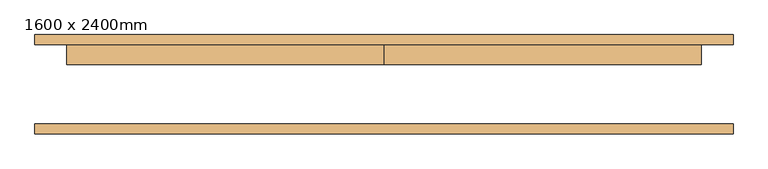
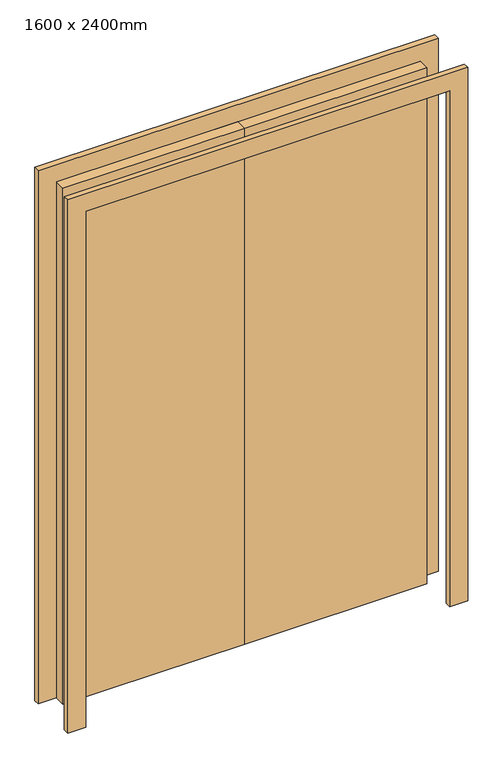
"""IFC4 building model written with IfcOpenShell, lengths in millimetres: door geometry, Porta-Nivelado-Duplo_Painel : 1600 x 2400mm."""

import ifcopenshell
import ifcopenshell.guid

model = None  # the IFC model being written
_history = None  # IfcOwnerHistory: only IFC2X3 demands one
_inside = {}  # id of a spatial element -> (the spatial element, [elements in it])
_under = {}  # id of a project, library or spatial element -> (it, [spatial elements below it])
_declared = {}  # id of a project -> (the project, [libraries it declares])
_typed = {}  # id of a type object -> (the type object, [elements of that type])
_made_of = {}  # id of a material, layer set ... -> (it, [elements and type objects made of it])


def new_model(schema):
    """Start an empty IFC model of exactly this schema.

    Asked for "IFC4X3", IfcOpenShell would pick the latest addendum, in which some entities
    have other attributes; the version numbers below select the first issue.
    IFC2X3 requires an IfcOwnerHistory on every rooted entity: one is made here for all.
    """
    global model, _history
    if schema == "IFC4X3":
        model = ifcopenshell.file(schema_version=(4, 3, 0, 0))
    else:
        model = ifcopenshell.file(schema=schema)
    _inside.clear()
    _under.clear()
    _declared.clear()
    _typed.clear()
    _made_of.clear()
    _history = None
    if model.schema == "IFC2X3":
        org = make("IfcOrganization", Name="unknown")
        user = make(
            "IfcPersonAndOrganization",
            ThePerson=make("IfcPerson", FamilyName="unknown"),
            TheOrganization=org,
        )
        app = make(
            "IfcApplication",
            ApplicationDeveloper=org,
            Version="unknown",
            ApplicationFullName="unknown",
            ApplicationIdentifier="unknown",
        )
        _history = make(
            "IfcOwnerHistory",
            OwningUser=user,
            OwningApplication=app,
            ChangeAction="ADDED",
            CreationDate=0,
        )
    return model


def make(cls, **values):
    """One entity of the class cls with the attributes given. An attribute that is None is left unset."""
    return model.create_entity(
        cls, **{name: value for name, value in values.items() if value is not None}
    )


def rooted(cls, **values):
    """An entity with a GlobalId (a new one), such as an element, a storey or a relation."""
    return make(cls, GlobalId=ifcopenshell.guid.new(), OwnerHistory=_history, **values)


def si_unit(unit_type, name, prefix=None):
    """IfcSIUnit, for example si_unit("LENGTHUNIT", "METRE", prefix="MILLI")."""
    return make("IfcSIUnit", UnitType=unit_type, Prefix=prefix, Name=name)


def assignment(units):
    """IfcUnitAssignment: the units of a project."""
    return None if units is None else make("IfcUnitAssignment", Units=units)


def point(xyz):
    """IfcCartesianPoint."""
    return None if xyz is None else make("IfcCartesianPoint", Coordinates=xyz)


def direction(xyz):
    """IfcDirection."""
    return None if xyz is None else make("IfcDirection", DirectionRatios=xyz)


def frame(location, z_axis=None, x_axis=None):
    """IfcAxis2Placement3D, a coordinate frame: its origin and axes. An axis left out is left unset."""
    return make(
        "IfcAxis2Placement3D",
        Location=point(location),
        Axis=direction(z_axis),
        RefDirection=direction(x_axis),
    )


def origin():
    """The frame at (0, 0, 0) with its axes left unset."""
    return frame((0.0, 0.0, 0.0))


def origin_with_axes():
    """The frame at (0, 0, 0) with the z axis (0, 0, 1) and the x axis (1, 0, 0) written out."""
    return frame((0.0, 0.0, 0.0), z_axis=(0.0, 0.0, 1.0), x_axis=(1.0, 0.0, 0.0))


def place(relative_to, where):
    """IfcLocalPlacement: puts the frame where relative to a parent placement (None: the world)."""
    return make(
        "IfcLocalPlacement", PlacementRelTo=relative_to, RelativePlacement=where
    )


def context(
    kind, dimensions, precision=None, world=None, true_north=None, identifier=None
):
    """IfcGeometricRepresentationContext, for example the 3D "Model" context."""
    return make(
        "IfcGeometricRepresentationContext",
        ContextIdentifier=identifier,
        ContextType=kind,
        CoordinateSpaceDimension=dimensions,
        Precision=precision,
        WorldCoordinateSystem=world,
        TrueNorth=true_north,
    )


def project(units=None, contexts=None):
    """IfcProject with its units and contexts."""
    return rooted(
        "IfcProject",
        Name="project",
        RepresentationContexts=contexts,
        UnitsInContext=assignment(units),
    )


def spatial(cls, under=None, at=None, **own):
    """A site, building, storey or space (cls), placed at a placement, below another one or the project."""
    s = rooted(cls, ObjectPlacement=at, **own)
    if under is not None:
        _under.setdefault(under.id(), (under, []))[1].append(s)
    return s


def polyline(points):
    """IfcPolyline through the points."""
    return make("IfcPolyline", Points=[point(p) for p in points])


def outline(outer, holes=None, kind="AREA"):
    """IfcArbitraryClosedProfileDef: a profile drawn as a closed curve; with holes, ...WithVoids."""
    if holes is None:
        return make("IfcArbitraryClosedProfileDef", ProfileType=kind, OuterCurve=outer)
    return make(
        "IfcArbitraryProfileDefWithVoids",
        ProfileType=kind,
        OuterCurve=outer,
        InnerCurves=holes,
    )


def extrude(swept, where, along, depth):
    """IfcExtrudedAreaSolid: the profile swept, set in the frame where, extruded along a direction by depth."""
    return make(
        "IfcExtrudedAreaSolid",
        SweptArea=swept,
        Position=where,
        ExtrudedDirection=direction(along),
        Depth=depth,
    )


def shape(context_of_items, identifier, shape_type, items):
    """IfcShapeRepresentation: the items that make up one representation, for example the "Body"."""
    return make(
        "IfcShapeRepresentation",
        ContextOfItems=context_of_items,
        RepresentationIdentifier=identifier,
        RepresentationType=shape_type,
        Items=items,
    )


def source(mapping_origin, context_of_items, identifier, shape_type, items):
    """IfcRepresentationMap: a shape defined once, which mapped items show again and again."""
    return make(
        "IfcRepresentationMap",
        MappingOrigin=mapping_origin,
        MappedRepresentation=shape(context_of_items, identifier, shape_type, items),
    )


def transform(
    local_origin,
    x_axis=None,
    y_axis=None,
    z_axis=None,
    scale=None,
    scale2=None,
    scale3=None,
    uniform=True,
):
    """IfcCartesianTransformationOperator3D, or its non-uniform kind. x_axis, y_axis, z_axis: its Axis1, 2, 3."""
    if uniform:
        return make(
            "IfcCartesianTransformationOperator3D",
            Axis1=direction(x_axis),
            Axis2=direction(y_axis),
            LocalOrigin=point(local_origin),
            Scale=scale,
            Axis3=direction(z_axis),
        )
    return make(
        "IfcCartesianTransformationOperator3DnonUniform",
        Axis1=direction(x_axis),
        Axis2=direction(y_axis),
        LocalOrigin=point(local_origin),
        Scale=scale,
        Axis3=direction(z_axis),
        Scale2=scale2,
        Scale3=scale3,
    )


def mapped(mapping_source, mapping_target):
    """IfcMappedItem: shows the shape of a source again, moved by a transform."""
    return make(
        "IfcMappedItem", MappingSource=mapping_source, MappingTarget=mapping_target
    )


def made_of(thing, what):
    """Note that an element or type object is made of a material, layer set ...; save() writes the relation."""
    if what is not None:
        _made_of.setdefault(what.id(), (what, []))[1].append(thing)
    return thing


def element(
    cls,
    number,
    at=None,
    inside=None,
    cuts=None,
    type_object=None,
    material=None,
    context=None,
    identifier="Body",
    shape_type=None,
    held_by="IfcProductDefinitionShape",
    body=None,
    shapes=None,
    **own,
):
    """One element of the class cls, such as IfcWall. Its Tag is "e" and its number.

    at: its placement. inside: the storey or other place that contains it. cuts: it is an
    opening in that element (IfcRelVoidsElement). A single representation is given by context,
    identifier, shape_type and body (its items); several are given by shapes. held_by: the class
    of the entity that holds the representations. save() writes the other relations.
    """
    e = rooted(cls, Tag="e%d" % number, ObjectPlacement=at, **own)
    if body is not None:
        shapes = [shape(context, identifier, shape_type, body)]
    if shapes is not None:
        e.Representation = make(held_by, Representations=shapes)
    if inside is not None:
        _inside.setdefault(inside.id(), (inside, []))[1].append(e)
    if cuts is not None:
        rooted(
            "IfcRelVoidsElement", RelatingBuildingElement=cuts, RelatedOpeningElement=e
        )
    if type_object is not None:
        _typed.setdefault(type_object.id(), (type_object, []))[1].append(e)
    return made_of(e, material)


def aggregate(whole, parts):
    """IfcRelAggregates: a whole, such as a stair, and the parts it consists of."""
    return rooted("IfcRelAggregates", RelatingObject=whole, RelatedObjects=parts)


def save(model, path):
    """Write the relations noted so far, then the file.

    IfcRelAggregates (storeys below a building ...), IfcRelContainedInSpatialStructure (elements
    in a storey), IfcRelDefinesByType, IfcRelAssociatesMaterial and IfcRelDeclares: one each for
    every whole, place, type object, material and project.
    """
    for whole, parts in _under.values():
        aggregate(whole, parts)
    for where, things in _inside.values():
        rooted(
            "IfcRelContainedInSpatialStructure",
            RelatedElements=things,
            RelatingStructure=where,
        )
    for kind, things in _typed.values():
        rooted("IfcRelDefinesByType", RelatedObjects=things, RelatingType=kind)
    for what, things in _made_of.values():
        rooted("IfcRelAssociatesMaterial", RelatedObjects=things, RelatingMaterial=what)
    for by, libraries in _declared.values():
        rooted("IfcRelDeclares", RelatingContext=by, RelatedDefinitions=libraries)
    model.write(path)


def door_1600_x_2400mm_73c1b3e7(model_context):
    return source(origin(), model_context, "Body", "SweptSolid", [
        extrude(outline(polyline([(2400.0, -800.0), (2400.0, 800.0), (0.0, 800.0), (0.0, 880.0), (2480.0, 880.0), (2480.0, -880.0), (0.0, -880.0), (0.0, -800.0), (2400.0, -800.0)])), frame((0.0, -125.0, 0.0), z_axis=(0.0, 1.0, 0.0), x_axis=(0.0, 0.0, 1.0)), (0.0, 0.0, 1.0), 25.0),
        extrude(outline(polyline([(2400.0, -800.0), (2400.0, 800.0), (0.0, 800.0), (0.0, 880.0), (2480.0, 880.0), (2480.0, -880.0), (0.0, -880.0), (0.0, -800.0), (2400.0, -800.0)])), frame((0.0, 100.0, 0.0), z_axis=(0.0, 1.0, 0.0), x_axis=(0.0, 0.0, 1.0)), (0.0, 0.0, 1.0), 25.0),
        extrude(outline(polyline([(0.0, 100.0), (800.0, 100.0), (800.0, 50.0), (0.0, 50.0), (0.0, 100.0)])), origin_with_axes(), (0.0, 0.0, 1.0), 2400.0),
        extrude(outline(polyline([(-800.0, 100.0), (0.0, 100.0), (0.0, 50.0), (-800.0, 50.0), (-800.0, 100.0)])), origin_with_axes(), (0.0, 0.0, 1.0), 2400.0),
    ])


if __name__ == "__main__":
    model = new_model("IFC4")
    model_context = context("Model", 3, world=origin())
    ifc_project = project(units=[si_unit("LENGTHUNIT", "METRE", prefix="MILLI")], contexts=[model_context])
    site = spatial("IfcSite", under=ifc_project)
    building = spatial("IfcBuilding", under=site)
    placement = place(None, origin())
    door_1600_x_2400mm_shape = door_1600_x_2400mm_73c1b3e7(model_context)
    element("IfcDoor", 1, ObjectType="Porta-Nivelado-Duplo_Painel : 1600 x 2400mm", at=placement, inside=building, context=model_context, shape_type="MappedRepresentation", body=[
        mapped(door_1600_x_2400mm_shape, transform((0.0, 0.0, 0.0), x_axis=(1.0, 0.0, 0.0), y_axis=(0.0, 1.0, 0.0), z_axis=(0.0, 0.0, 1.0))),
    ])
    save(model, "model.ifc")
